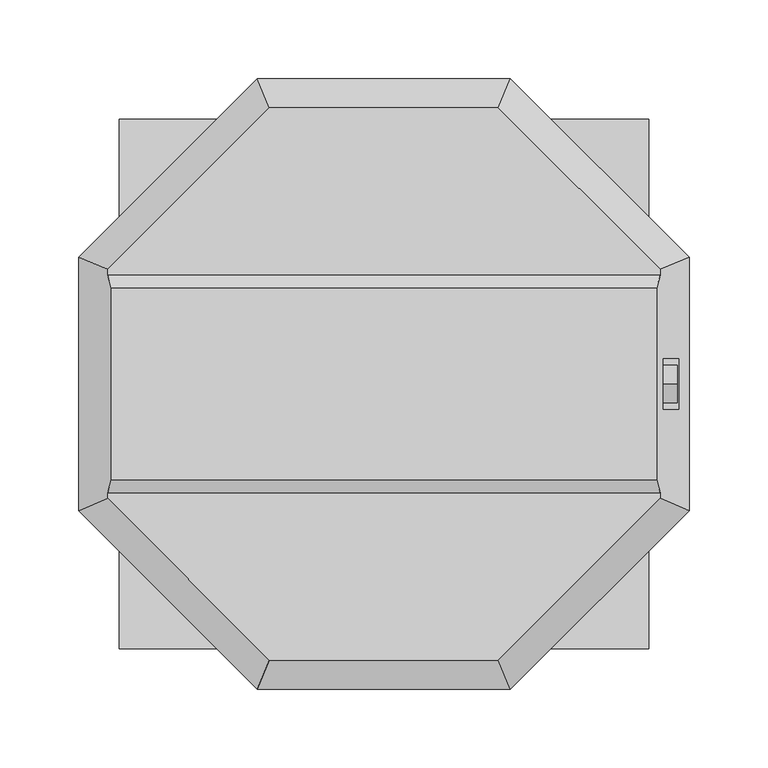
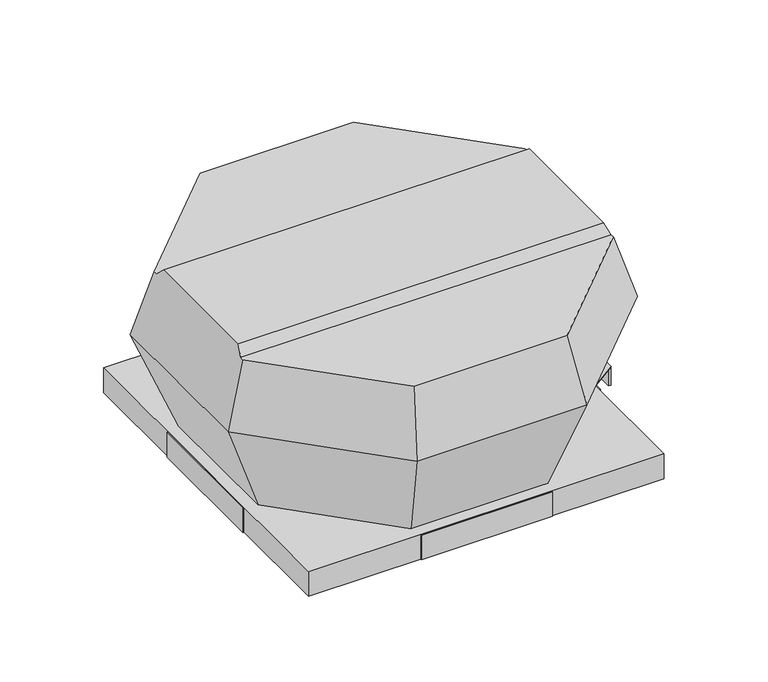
"""IFC4 building model written with IfcOpenShell, lengths in millimetres: unitary equipment geometry, VE-Wentylator-ParaForma-Harmann-VIVER_PS_EC-Wywiewny : 2-250/1200EC."""

from ifc_helpers import new_model, si_unit, point, frame, frame_2d, origin, place, context, project, spatial, circle_curve, trimmed, segment, composite_curve, outline, extrude, faceted_brep, source, transform, mapped, element, save


def unitary_equipment_949a860e(model_context):
    return source(origin(), model_context, "Body", "SolidModel", [
        faceted_brep([(173.5597397, -61.0, 166.2), (173.5597397, 61.0, 166.2), (-173.5597397, 61.0, 166.2), (-173.5597397, -61.0, 166.2), (175.9961687, 69.1, 158.1), (-175.9961687, 69.1, 158.1), (175.9961687, -69.1, 158.1), (-175.9961687, -69.1, 158.1), (72.9, -175.9961687, 158.1), (175.9961687, -72.9, 158.1), (-175.9961687, -72.9, 158.1), (-72.9, -175.9961687, 158.1), (175.9961687, 72.9, 158.1), (72.9, 175.9961687, 158.1), (-72.9, 175.9961687, 158.1), (-175.9961687, 72.9, 158.1), (80.55, -194.4649024, 96.7), (194.4649024, -80.55, 96.7), (194.4649024, 80.55, 96.7), (187.697044, -16.0, 119.2), (177.8310103, -16.0, 152.0), (177.8310103, 16.0, 152.0), (187.697044, 16.0, 119.2), (80.55, 194.4649024, 96.7), (-80.55, 194.4649024, 96.7), (-194.4649024, 80.55, 96.7), (-194.4649024, -80.55, 96.7), (-80.55, -194.4649024, 96.7), (176.8, -16.0, 119.2), (176.8, 16.0, 119.2), (176.8, 16.0, 152.0), (176.8, -16.0, 152.0), (65.1, -157.1653029, 1.0), (-65.1, -157.1653029, 1.0), (-157.1653029, -65.1, 1.0), (-157.1653029, 65.1, 1.0), (-65.1, 157.1653029, 1.0), (65.1, 157.1653029, 1.0), (157.1653029, 65.1, 1.0), (157.1653029, -65.1, 1.0)], [[[0, 1, 2, 3]], [[1, 4, 5, 2]], [[6, 0, 3, 7]], [[8, 9, 6, 7, 10, 11]], [[12, 13, 14, 15, 5, 4]], [[9, 8, 16, 17]], [[9, 17, 18, 12, 4, 1, 0, 6], [19, 20, 21, 22]], [[13, 12, 18, 23]], [[14, 13, 23, 24]], [[15, 14, 24, 25]], [[15, 25, 26, 10, 7, 3, 2, 5]], [[11, 10, 26, 27]], [[8, 11, 27, 16]], [[28, 29, 30, 31]], [[28, 31, 20, 19]], [[31, 30, 21, 20]], [[30, 29, 22, 21]], [[29, 28, 19, 22]], [[32, 33, 34, 35, 36, 37, 38, 39]], [[32, 39, 17, 16]], [[39, 38, 18, 17]], [[38, 37, 23, 18]], [[37, 36, 24, 23]], [[36, 35, 25, 24]], [[35, 34, 26, 25]], [[34, 33, 27, 26]], [[33, 32, 16, 27]]]),
        faceted_brep([(167.6, 167.6, -24.0), (167.6, 167.6, 0.0), (-167.6, 167.6, 0.0), (-167.6, 167.6, -24.0), (168.6, 168.6, 1.0), (168.6, 168.6, -24.0), (-168.6, 168.6, -24.0), (-168.6, 168.6, 1.0), (-167.6, -167.6, 0.0), (-167.6, -167.6, -24.0), (-168.6, -168.6, -24.0), (-168.6, -168.6, 1.0), (167.6, -167.6, 0.0), (167.6, -167.6, -24.0), (168.6, -168.6, -24.0), (168.6, -168.6, 1.0)], [[[0, 1, 2, 3]], [[4, 5, 6, 7]], [[3, 2, 8, 9]], [[7, 6, 10, 11]], [[9, 8, 12, 13]], [[11, 10, 14, 15]], [[13, 12, 1, 0]], [[5, 14, 10, 6], [3, 9, 13, 0]], [[15, 14, 5, 4]], [[7, 11, 15, 4]], [[1, 12, 8, 2]]]),
        extrude(outline(composite_curve([segment(trimmed(circle_curve(frame_2d((0.0, 135.6)), 12.0), [point((0.0, 147.6))], [point((0.0, 123.6))], False, "CARTESIAN"), True, "CONTINUOUS"), segment(trimmed(circle_curve(frame_2d((0.0, 135.6)), 12.0), [point((0.0, 123.6))], [point((0.0, 147.6))], False, "CARTESIAN"), True, "CONTINUOUS")], self_intersect=False)), frame((176.8, 0.0, 0.0), z_axis=(1.0, 0.0, 0.0), x_axis=(0.0, 1.0, 0.0)), (0.0, 0.0, 1.0), 10.0),
        faceted_brep([(-168.6, -62.3, -24.0), (-169.6, -62.3, -24.0), (-169.6, 62.3, -24.0), (-168.6, 62.3, -24.0), (-168.6, -62.3, 1.0), (-168.6, 62.3, 1.0), (-169.6, 62.3, 1.0), (-169.6, -62.3, 1.0)], [[[0, 1, 2, 3]], [[4, 5, 6, 7]], [[1, 0, 4, 7]], [[2, 1, 7, 6]], [[3, 2, 6, 5]], [[0, 3, 5, 4]]]),
        faceted_brep([(169.6, -62.3, -24.0), (168.6, -62.3, -24.0), (168.6, 62.3, -24.0), (169.6, 62.3, -24.0), (169.6, 62.3, 1.0), (168.6, 62.3, 1.0), (168.6, -62.3, 1.0), (169.6, -62.3, 1.0), (169.6, -54.8, 1.0), (193.6, -38.0, 1.0), (193.6, 38.0, 1.0), (169.6, 54.8, 1.0), (169.6, 54.8, 0.0), (169.6, -54.8, 0.0), (193.6, 38.0, 0.0), (191.5, 38.0, 0.0), (191.5, -38.0, 0.0), (193.6, -38.0, 0.0), (193.6, -38.0, -18.0), (193.6, 38.0, -18.0), (191.5, -38.0, -18.0), (191.5, 38.0, -18.0)], [[[0, 1, 2, 3]], [[4, 5, 6, 7, 8, 9, 10, 11]], [[1, 0, 7, 6]], [[2, 1, 6, 5]], [[3, 2, 5, 4]], [[0, 3, 4, 11, 12, 13, 8, 7]], [[12, 14, 15, 16, 17, 13]], [[14, 12, 11, 10]], [[10, 9, 17, 18, 19, 14]], [[13, 17, 9, 8]], [[20, 16, 15, 21]], [[16, 20, 18, 17]], [[21, 15, 14, 19]], [[20, 21, 19, 18]]]),
        faceted_brep([(62.3, 168.6, -24.0), (-62.3, 168.6, -24.0), (-62.3, 169.6, -24.0), (62.3, 169.6, -24.0), (62.3, 168.6, 1.0), (62.3, 169.6, 1.0), (-62.3, 169.6, 1.0), (-62.3, 168.6, 1.0)], [[[0, 1, 2, 3]], [[4, 5, 6, 7]], [[1, 0, 4, 7]], [[2, 1, 7, 6]], [[3, 2, 6, 5]], [[0, 3, 5, 4]]]),
        faceted_brep([(62.3, -169.6, -24.0), (-62.3, -169.6, -24.0), (-62.3, -168.6, -24.0), (62.3, -168.6, -24.0), (62.3, -169.6, 1.0), (62.3, -168.6, 1.0), (-62.3, -168.6, 1.0), (-62.3, -169.6, 1.0)], [[[0, 1, 2, 3]], [[4, 5, 6, 7]], [[1, 0, 4, 7]], [[2, 1, 7, 6]], [[3, 2, 6, 5]], [[0, 3, 5, 4]]]),
    ])


if __name__ == "__main__":
    model = new_model("IFC4")
    model_context = context("Model", 3, world=origin())
    ifc_project = project(units=[si_unit("LENGTHUNIT", "METRE", prefix="MILLI")], contexts=[model_context])
    site = spatial("IfcSite", under=ifc_project)
    building = spatial("IfcBuilding", under=site)
    placement = place(None, origin())
    unitary_equipment_shape = unitary_equipment_949a860e(model_context)
    element("IfcUnitaryEquipment", 1, ObjectType="VE-Wentylator-ParaForma-Harmann-VIVER_PS_EC-Wywiewny : 2-250/1200EC", at=placement, inside=building, context=model_context, shape_type="MappedRepresentation", body=[
        mapped(unitary_equipment_shape, transform((0.0, 0.0, 0.0), x_axis=(1.0, 0.0, 0.0), y_axis=(0.0, 1.0, 0.0), z_axis=(0.0, 0.0, 1.0))),
    ])
    save(model, "model.ifc")
